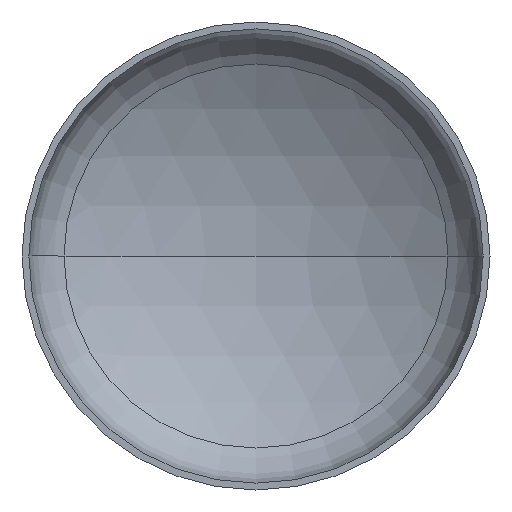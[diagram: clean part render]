
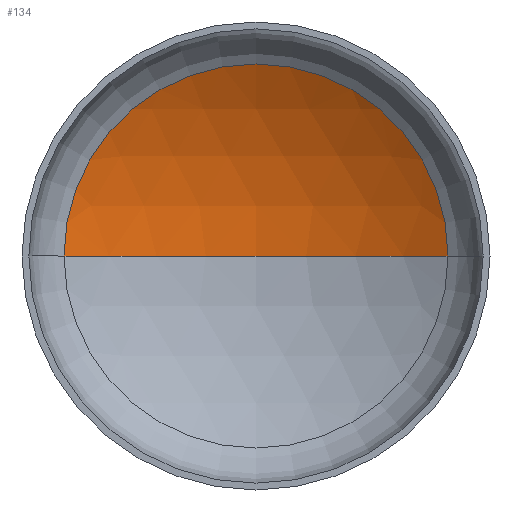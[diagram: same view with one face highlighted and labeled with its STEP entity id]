
A CAD part, front view. The second image highlights one B-rep face of the part: STEP entity #134.
In plain terms, the highlighted spherical face has radius 6000 mm.
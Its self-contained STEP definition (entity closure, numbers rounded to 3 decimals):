
#25 = AXIS2_PLACEMENT_3D ( 'NONE', #203, #169, #235 ) ;
#40 = AXIS2_PLACEMENT_3D ( 'NONE', #185, #187, #172 ) ;
#41 = ORIENTED_EDGE ( 'NONE', *, *, #90, .T. ) ;
#43 = AXIS2_PLACEMENT_3D ( 'NONE', #208, #194, #191 ) ;
#46 = VERTEX_POINT ( 'NONE', #231 ) ;
#48 = AXIS2_PLACEMENT_3D ( 'NONE', #279, #276, #275 ) ;
#84 = EDGE_CURVE ( 'NONE', #125, #133, #266, .T. ) ;
#90 = EDGE_CURVE ( 'NONE', #46, #125, #207, .T. ) ;
#91 = EDGE_CURVE ( 'NONE', #46, #133, #108, .T. ) ;
#108 = CIRCLE ( 'NONE', #40, 6000. ) ;
#109 = ORIENTED_EDGE ( 'NONE', *, *, #91, .F. ) ;
#115 = EDGE_LOOP ( 'NONE', ( #109, #41, #175 ) ) ;
#125 = VERTEX_POINT ( 'NONE', #188 ) ;
#133 = VERTEX_POINT ( 'NONE', #195 ) ;
#134 = ADVANCED_FACE ( 'NONE', ( #197 ), #374, .F. ) ;
#169 = DIRECTION ( 'NONE',  ( 0., 0., -1. ) ) ;
#172 = DIRECTION ( 'NONE',  ( 1., 0., 0. ) ) ;
#175 = ORIENTED_EDGE ( 'NONE', *, *, #84, .T. ) ;
#185 = CARTESIAN_POINT ( 'NONE',  ( 0., -4084.183, 0. ) ) ;
#187 = DIRECTION ( 'NONE',  ( 0., 0., 1. ) ) ;
#188 = CARTESIAN_POINT ( 'NONE',  ( 3077.399, 1066.508, 0. ) ) ;
#191 = DIRECTION ( 'NONE',  ( -1., 0., 0. ) ) ;
#194 = DIRECTION ( 'NONE',  ( 0., 0., -1. ) ) ;
#195 = CARTESIAN_POINT ( 'NONE',  ( -3077.399, 1066.508, 0. ) ) ;
#197 = FACE_OUTER_BOUND ( 'NONE', #115, .T. ) ;
#203 = CARTESIAN_POINT ( 'NONE',  ( 0., -4084.183, 0. ) ) ;
#207 = CIRCLE ( 'NONE', #43, 6000. ) ;
#208 = CARTESIAN_POINT ( 'NONE',  ( 0., -4084.183, 0. ) ) ;
#231 = CARTESIAN_POINT ( 'NONE',  ( 0., 1915.817, 0. ) ) ;
#235 = DIRECTION ( 'NONE',  ( -1., 0., 0. ) ) ;
#266 = CIRCLE ( 'NONE', #48, 3077.399 ) ;
#275 = DIRECTION ( 'NONE',  ( 1., 0., 0. ) ) ;
#276 = DIRECTION ( 'NONE',  ( 0., -1., 0. ) ) ;
#279 = CARTESIAN_POINT ( 'NONE',  ( 0., 1066.508, 0. ) ) ;
#374 = SPHERICAL_SURFACE ( 'NONE', #25, 6000. ) ;
